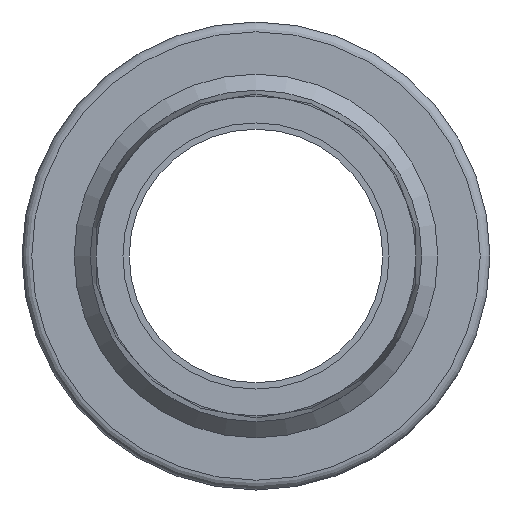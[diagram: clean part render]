
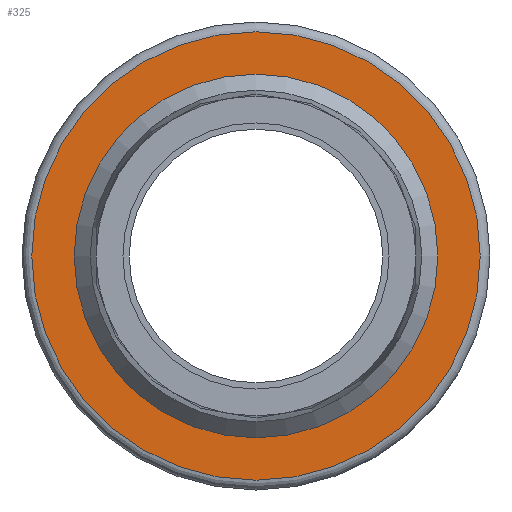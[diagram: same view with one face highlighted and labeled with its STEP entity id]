
A CAD part, front view. The second image highlights one B-rep face of the part: STEP entity #325.
In plain terms, the highlighted planar face has unit normal (0, -1, 0).
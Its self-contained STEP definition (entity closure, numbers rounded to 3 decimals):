
#84=ORIENTED_EDGE('',*,*,#104,.F.);
#85=ORIENTED_EDGE('',*,*,#112,.T.);
#104=EDGE_CURVE('',#126,#126,#148,.T.);
#112=EDGE_CURVE('',#134,#134,#156,.T.);
#126=VERTEX_POINT('',#523);
#134=VERTEX_POINT('',#545);
#148=CIRCLE('',#368,18.65);
#156=CIRCLE('',#382,23.);
#194=EDGE_LOOP('',(#84));
#195=EDGE_LOOP('',(#85));
#238=FACE_BOUND('',#194,.T.);
#239=FACE_BOUND('',#195,.T.);
#253=PLANE('',#383);
#325=ADVANCED_FACE('',(#238,#239),#253,.T.);
#368=AXIS2_PLACEMENT_3D('',#522,#440,#441);
#382=AXIS2_PLACEMENT_3D('',#544,#468,#469);
#383=AXIS2_PLACEMENT_3D('',#546,#470,#471);
#440=DIRECTION('',(0.,-1.,0.));
#441=DIRECTION('',(0.,0.,-1.));
#468=DIRECTION('',(0.,-1.,0.));
#469=DIRECTION('',(0.,0.,-1.));
#470=DIRECTION('',(0.,-1.,0.));
#471=DIRECTION('',(0.,0.,-1.));
#522=CARTESIAN_POINT('',(0.,0.,0.));
#523=CARTESIAN_POINT('',(0.,0.,-18.65));
#544=CARTESIAN_POINT('',(0.,0.,0.));
#545=CARTESIAN_POINT('',(0.,0.,-23.));
#546=CARTESIAN_POINT('',(0.,0.,16.85));
